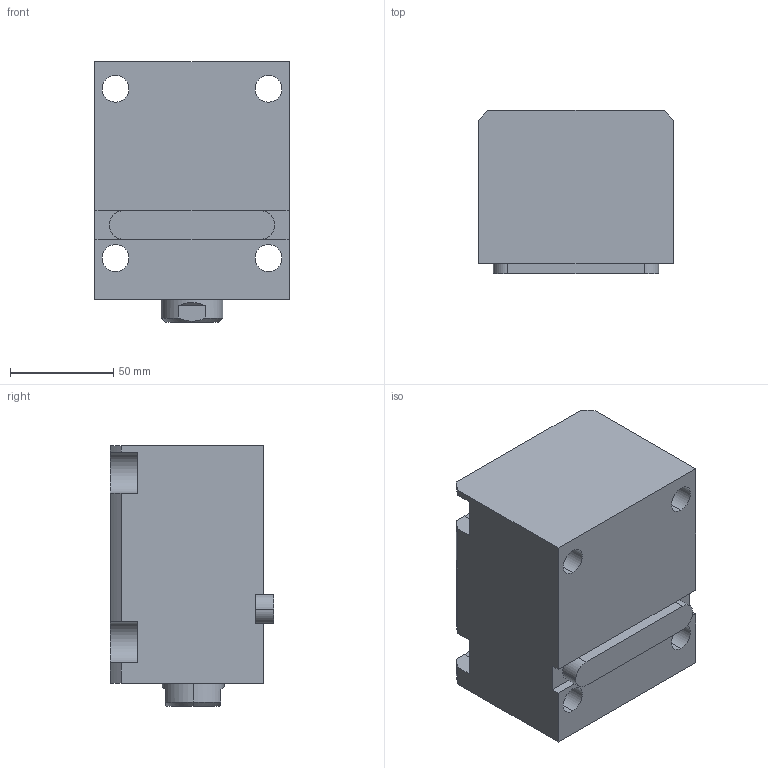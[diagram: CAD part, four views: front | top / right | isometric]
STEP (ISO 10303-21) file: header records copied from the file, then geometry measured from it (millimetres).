
FILE_DESCRIPTION (( 'STEP AP203' ), '1' );
FILE_NAME ('CHTB-LA50-55N.STEP', '2018-05-18T01:36:00', ( '' ), ( '' ), 'SwSTEP 2.0', 'SolidWorks 2015', '' );
FILE_SCHEMA (( 'CONFIG_CONTROL_DESIGN' ));
Length unit declared in the file: millimetre
Products named in the file (4): 活塞杆LA50-55N; 掛极LA50-55N; CHTB-LA50-55N; CHTM-SDMA50QG
Assembly tree (3 placements, depth 2):
  CHTB-LA50-55N
    掛极LA50-55N
    活塞杆LA50-55N
    CHTM-SDMA50QG
Bounding box: 94 x 79 x 126 mm (x, y, z)
Volume: 674732.6 mm3; surface area: 115607.8 mm2
Topology: 3 solids, 3 shells, 202 faces, 542 edges, 358 vertices
Faces by surface type: cylinder 96, plane 53, cone 23, torus 16, bspline 14
Entity records: 11255 total; most frequent: CARTESIAN_POINT 5992, ORIENTED_EDGE 1072, DIRECTION 958, EDGE_CURVE 536, AXIS2_PLACEMENT_3D 377, VERTEX_POINT 358, EDGE_LOOP 234, VECTOR 204
